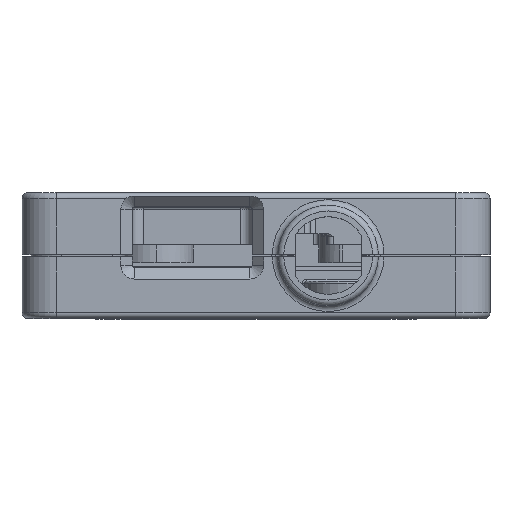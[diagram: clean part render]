
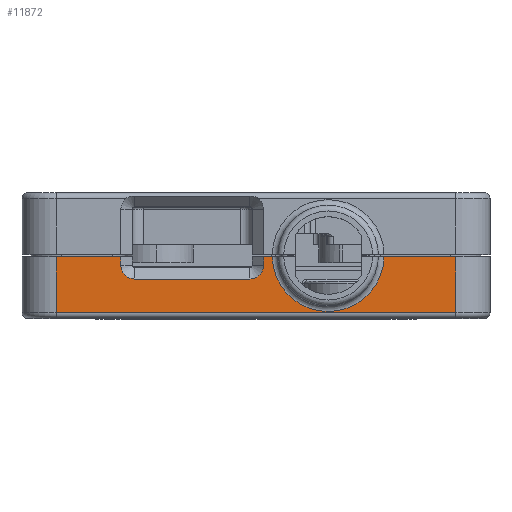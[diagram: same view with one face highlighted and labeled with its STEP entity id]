
A CAD part, top view. The second image highlights one B-rep face of the part: STEP entity #11872.
In plain terms, the highlighted planar face has unit normal (0, 0, 1).
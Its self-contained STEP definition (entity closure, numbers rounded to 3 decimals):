
#41 = VERTEX_POINT ( 'NONE', #7588 ) ;
#388 = VERTEX_POINT ( 'NONE', #7363 ) ;
#539 = VERTEX_POINT ( 'NONE', #13470 ) ;
#668 = PLANE ( 'NONE',  #3815 ) ;
#701 = CARTESIAN_POINT ( 'NONE',  ( 0.66, 1.35, 19.5 ) ) ;
#746 = DIRECTION ( 'NONE',  ( -1., 0., 0. ) ) ;
#749 = VERTEX_POINT ( 'NONE', #13975 ) ;
#922 = LINE ( 'NONE', #13889, #2605 ) ;
#984 = ORIENTED_EDGE ( 'NONE', *, *, #12061, .F. ) ;
#1031 = DIRECTION ( 'NONE',  ( 0., 0., -1. ) ) ;
#1089 = CARTESIAN_POINT ( 'NONE',  ( 17.5, -2.8, 19.5 ) ) ;
#1097 = VECTOR ( 'NONE', #9338, 1000. ) ;
#1156 = LINE ( 'NONE', #5357, #9413 ) ;
#1340 = ORIENTED_EDGE ( 'NONE', *, *, #9788, .T. ) ;
#1595 = VECTOR ( 'NONE', #9204, 1000. ) ;
#1789 = EDGE_CURVE ( 'NONE', #15524, #11098, #10629, .T. ) ;
#2224 = CARTESIAN_POINT ( 'NONE',  ( 6.32, 2.2, 19.5 ) ) ;
#2393 = CARTESIAN_POINT ( 'NONE',  ( 1.421, 2.1, 19.5 ) ) ;
#2441 = CARTESIAN_POINT ( 'NONE',  ( -19., 2.1, 19.5 ) ) ;
#2605 = VECTOR ( 'NONE', #3060, 1000. ) ;
#2879 = CARTESIAN_POINT ( 'NONE',  ( -17.5, 2.1, 19.5 ) ) ;
#2884 = LINE ( 'NONE', #12980, #1595 ) ;
#3060 = DIRECTION ( 'NONE',  ( 1., 0., 0. ) ) ;
#3779 = ORIENTED_EDGE ( 'NONE', *, *, #12546, .F. ) ;
#3815 = AXIS2_PLACEMENT_3D ( 'NONE', #9201, #15059, #5551 ) ;
#3852 = CIRCLE ( 'NONE', #13211, 4.9 ) ;
#3881 = DIRECTION ( 'NONE',  ( -1., 0., 0. ) ) ;
#4109 = DIRECTION ( 'NONE',  ( 0., -1., 0. ) ) ;
#4270 = VERTEX_POINT ( 'NONE', #2393 ) ;
#4290 = LINE ( 'NONE', #6993, #1097 ) ;
#4473 = ORIENTED_EDGE ( 'NONE', *, *, #1789, .T. ) ;
#4568 = ORIENTED_EDGE ( 'NONE', *, *, #9533, .F. ) ;
#5068 = CIRCLE ( 'NONE', #10755, 1.2 ) ;
#5331 = CARTESIAN_POINT ( 'NONE',  ( 0.66, 2.2, 19.5 ) ) ;
#5357 = CARTESIAN_POINT ( 'NONE',  ( -17.5, 2.2, 19.5 ) ) ;
#5420 = ORIENTED_EDGE ( 'NONE', *, *, #5847, .T. ) ;
#5551 = DIRECTION ( 'NONE',  ( -1., 0., 0. ) ) ;
#5847 = EDGE_CURVE ( 'NONE', #539, #10196, #5068, .T. ) ;
#6329 = VECTOR ( 'NONE', #15508, 1000. ) ;
#6513 = CARTESIAN_POINT ( 'NONE',  ( -11.84, 1.35, 19.5 ) ) ;
#6609 = VERTEX_POINT ( 'NONE', #701 ) ;
#6848 = ORIENTED_EDGE ( 'NONE', *, *, #13160, .T. ) ;
#6993 = CARTESIAN_POINT ( 'NONE',  ( -11.84, 2.2, 19.5 ) ) ;
#7176 = EDGE_CURVE ( 'NONE', #10196, #41, #4290, .T. ) ;
#7224 = ORIENTED_EDGE ( 'NONE', *, *, #7176, .T. ) ;
#7363 = CARTESIAN_POINT ( 'NONE',  ( -0.54, 0.15, 19.5 ) ) ;
#7429 = DIRECTION ( 'NONE',  ( 1., 0., 0. ) ) ;
#7510 = VERTEX_POINT ( 'NONE', #2879 ) ;
#7588 = CARTESIAN_POINT ( 'NONE',  ( -11.84, 2.1, 19.5 ) ) ;
#7600 = VECTOR ( 'NONE', #10440, 1000. ) ;
#7699 = LINE ( 'NONE', #2441, #7891 ) ;
#7762 = LINE ( 'NONE', #5331, #14280 ) ;
#7891 = VECTOR ( 'NONE', #9638, 1000. ) ;
#8357 = CARTESIAN_POINT ( 'NONE',  ( -19., -2.8, 19.5 ) ) ;
#8981 = DIRECTION ( 'NONE',  ( -1., 0., 0. ) ) ;
#9002 = ORIENTED_EDGE ( 'NONE', *, *, #9692, .T. ) ;
#9201 = CARTESIAN_POINT ( 'NONE',  ( -19., 2.2, 19.5 ) ) ;
#9204 = DIRECTION ( 'NONE',  ( 0., 1., 0. ) ) ;
#9338 = DIRECTION ( 'NONE',  ( 0., 1., 0. ) ) ;
#9413 = VECTOR ( 'NONE', #13706, 1000. ) ;
#9533 = EDGE_CURVE ( 'NONE', #13367, #15375, #14689, .T. ) ;
#9638 = DIRECTION ( 'NONE',  ( 1., 0., 0. ) ) ;
#9692 = EDGE_CURVE ( 'NONE', #13367, #4270, #3852, .T. ) ;
#9788 = EDGE_CURVE ( 'NONE', #388, #539, #9849, .T. ) ;
#9849 = LINE ( 'NONE', #13785, #7600 ) ;
#10013 = CARTESIAN_POINT ( 'NONE',  ( -10.64, 1.35, 19.5 ) ) ;
#10163 = EDGE_LOOP ( 'NONE', ( #5420, #7224, #3779, #13711, #4473, #13940, #4568, #9002, #984, #6848, #11293, #1340 ) ) ;
#10196 = VERTEX_POINT ( 'NONE', #6513 ) ;
#10230 = EDGE_CURVE ( 'NONE', #11098, #15375, #2884, .T. ) ;
#10432 = CARTESIAN_POINT ( 'NONE',  ( -0.54, 1.35, 19.5 ) ) ;
#10440 = DIRECTION ( 'NONE',  ( -1., 0., 0. ) ) ;
#10482 = CARTESIAN_POINT ( 'NONE',  ( -17.5, -2.8, 19.5 ) ) ;
#10629 = LINE ( 'NONE', #8357, #6329 ) ;
#10737 = AXIS2_PLACEMENT_3D ( 'NONE', #10432, #12851, #746 ) ;
#10755 = AXIS2_PLACEMENT_3D ( 'NONE', #10013, #11209, #3881 ) ;
#10973 = VECTOR ( 'NONE', #7429, 1000. ) ;
#11098 = VERTEX_POINT ( 'NONE', #1089 ) ;
#11209 = DIRECTION ( 'NONE',  ( 0., 0., -1. ) ) ;
#11293 = ORIENTED_EDGE ( 'NONE', *, *, #12483, .T. ) ;
#11832 = FACE_OUTER_BOUND ( 'NONE', #10163, .T. ) ;
#11872 = ADVANCED_FACE ( 'NONE', ( #11832 ), #668, .F. ) ;
#12061 = EDGE_CURVE ( 'NONE', #749, #4270, #7699, .T. ) ;
#12483 = EDGE_CURVE ( 'NONE', #6609, #388, #12542, .T. ) ;
#12492 = CARTESIAN_POINT ( 'NONE',  ( 17.5, 2.1, 19.5 ) ) ;
#12542 = CIRCLE ( 'NONE', #10737, 1.2 ) ;
#12546 = EDGE_CURVE ( 'NONE', #7510, #41, #922, .T. ) ;
#12680 = CARTESIAN_POINT ( 'NONE',  ( 11.219, 2.1, 19.5 ) ) ;
#12851 = DIRECTION ( 'NONE',  ( 0., 0., -1. ) ) ;
#12980 = CARTESIAN_POINT ( 'NONE',  ( 17.5, 2.2, 19.5 ) ) ;
#13160 = EDGE_CURVE ( 'NONE', #749, #6609, #7762, .T. ) ;
#13211 = AXIS2_PLACEMENT_3D ( 'NONE', #2224, #1031, #8981 ) ;
#13367 = VERTEX_POINT ( 'NONE', #12680 ) ;
#13470 = CARTESIAN_POINT ( 'NONE',  ( -10.64, 0.15, 19.5 ) ) ;
#13706 = DIRECTION ( 'NONE',  ( 0., -1., 0. ) ) ;
#13711 = ORIENTED_EDGE ( 'NONE', *, *, #14872, .T. ) ;
#13785 = CARTESIAN_POINT ( 'NONE',  ( -19., 0.15, 19.5 ) ) ;
#13889 = CARTESIAN_POINT ( 'NONE',  ( -19., 2.1, 19.5 ) ) ;
#13940 = ORIENTED_EDGE ( 'NONE', *, *, #10230, .T. ) ;
#13975 = CARTESIAN_POINT ( 'NONE',  ( 0.66, 2.1, 19.5 ) ) ;
#14280 = VECTOR ( 'NONE', #4109, 1000. ) ;
#14406 = CARTESIAN_POINT ( 'NONE',  ( -19., 2.1, 19.5 ) ) ;
#14689 = LINE ( 'NONE', #14406, #10973 ) ;
#14872 = EDGE_CURVE ( 'NONE', #7510, #15524, #1156, .T. ) ;
#15059 = DIRECTION ( 'NONE',  ( 0., 0., -1. ) ) ;
#15375 = VERTEX_POINT ( 'NONE', #12492 ) ;
#15508 = DIRECTION ( 'NONE',  ( 1., 0., 0. ) ) ;
#15524 = VERTEX_POINT ( 'NONE', #10482 ) ;
